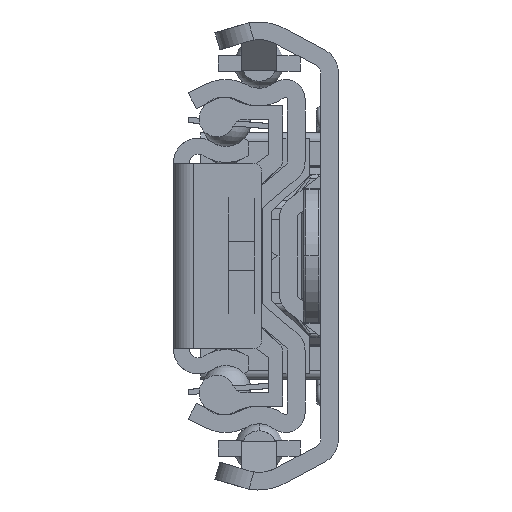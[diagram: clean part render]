
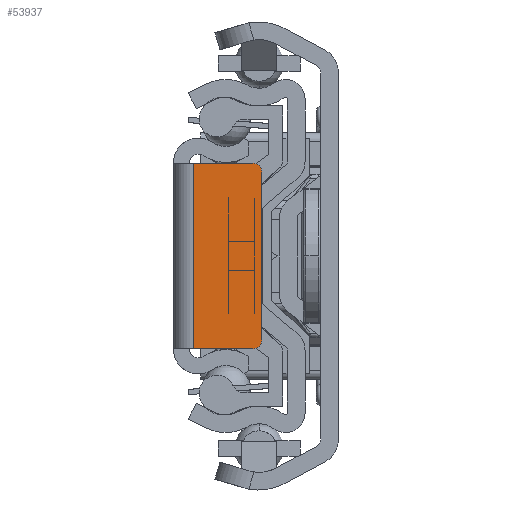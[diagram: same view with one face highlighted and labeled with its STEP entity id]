
A CAD part, left-side view. The second image highlights one B-rep face of the part: STEP entity #53937.
In plain terms, the highlighted planar face has unit normal (-1, 0, 0).
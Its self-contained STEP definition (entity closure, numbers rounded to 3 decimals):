
#47998=DIRECTION('',(0.,-1.,0.));
#47999=VECTOR('',#47998,6.7);
#48000=CARTESIAN_POINT('',(0.,-2.3,10.5));
#48001=LINE('',#48000,#47999);
#49045=DIRECTION('',(0.,-1.,0.));
#49046=VECTOR('',#49045,6.7);
#49047=CARTESIAN_POINT('',(0.,-2.3,-10.5));
#49048=LINE('',#49047,#49046);
#49049=CARTESIAN_POINT('',(0.,-9.,9.5));
#49050=DIRECTION('',(-1.,0.,0.));
#49051=DIRECTION('',(0.,-1.,0.));
#49052=AXIS2_PLACEMENT_3D('',#49049,#49050,#49051);
#49054=CARTESIAN_POINT('',(0.,-9.,-9.5));
#49055=DIRECTION('',(-1.,0.,0.));
#49056=DIRECTION('',(0.,0.,-1.));
#49057=AXIS2_PLACEMENT_3D('',#49054,#49055,#49056);
#49059=DIRECTION('',(0.,0.,1.));
#49060=VECTOR('',#49059,21.);
#49061=CARTESIAN_POINT('',(0.,-2.3,-10.5));
#49062=LINE('',#49061,#49060);
#49071=DIRECTION('',(0.,0.,1.));
#49072=VECTOR('',#49071,19.);
#49073=CARTESIAN_POINT('',(0.,-10.,-9.5));
#49074=LINE('',#49073,#49072);
#51985=CARTESIAN_POINT('',(0.,-2.3,-10.5));
#51986=CARTESIAN_POINT('',(0.,-2.3,10.5));
#51987=VERTEX_POINT('',#51985);
#51988=VERTEX_POINT('',#51986);
#52010=CARTESIAN_POINT('',(0.,-10.,9.5));
#52011=VERTEX_POINT('',#52010);
#52012=CARTESIAN_POINT('',(0.,-9.,10.5));
#52013=VERTEX_POINT('',#52012);
#52014=CARTESIAN_POINT('',(0.,-9.,-10.5));
#52015=CARTESIAN_POINT('',(0.,-10.,-9.5));
#52016=VERTEX_POINT('',#52014);
#52017=VERTEX_POINT('',#52015);
#53922=CARTESIAN_POINT('',(0.,-2.3,-10.5));
#53923=DIRECTION('',(-1.,0.,0.));
#53924=DIRECTION('',(0.,-1.,0.));
#53925=AXIS2_PLACEMENT_3D('',#53922,#53923,#53924);
#53926=PLANE('',#53925);
#53927=ORIENTED_EDGE('',*,*,#53023,.F.);
#53929=ORIENTED_EDGE('',*,*,#53928,.F.);
#53930=ORIENTED_EDGE('',*,*,#53913,.F.);
#53931=ORIENTED_EDGE('',*,*,#53903,.F.);
#53933=ORIENTED_EDGE('',*,*,#53932,.T.);
#53934=ORIENTED_EDGE('',*,*,#53000,.T.);
#53935=EDGE_LOOP('',(#53927,#53929,#53930,#53931,#53933,#53934));
#53936=FACE_OUTER_BOUND('',#53935,.F.);
#49053=CIRCLE('',#49052,1.);
#49058=CIRCLE('',#49057,1.);
#53000=EDGE_CURVE('',#51988,#52013,#48001,.T.);
#53023=EDGE_CURVE('',#52011,#52013,#49053,.T.);
#53903=EDGE_CURVE('',#51987,#52016,#49048,.T.);
#53913=EDGE_CURVE('',#52016,#52017,#49058,.T.);
#53928=EDGE_CURVE('',#52017,#52011,#49074,.T.);
#53932=EDGE_CURVE('',#51987,#51988,#49062,.T.);
#53937=ADVANCED_FACE('',(#53936),#53926,.T.);
